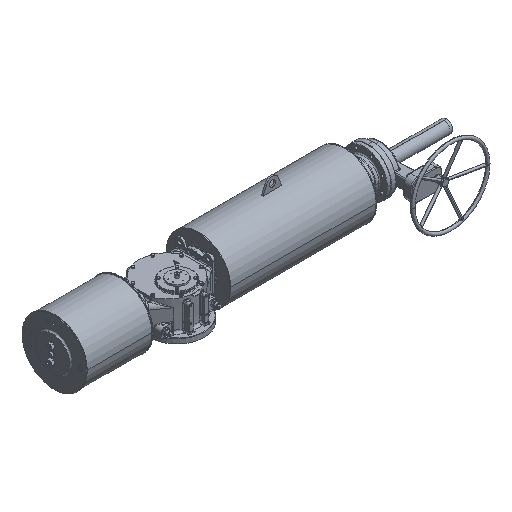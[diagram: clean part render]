
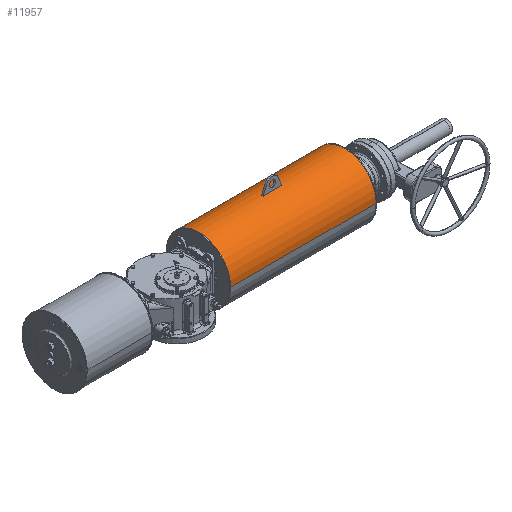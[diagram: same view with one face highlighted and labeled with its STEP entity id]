
A CAD part, isometric view. The second image highlights one B-rep face of the part: STEP entity #11957.
In plain terms, the highlighted cylindrical face has radius 203.2 mm (diameter 406.4 mm), a partial arc.
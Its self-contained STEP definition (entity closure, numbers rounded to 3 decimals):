
#2472 = ORIENTED_EDGE ( 'NONE', *, *, #18635, .T. ) ;
#4959 = AXIS2_PLACEMENT_3D ( 'NONE', #34042, #55928, #63653 ) ;
#5140 = EDGE_CURVE ( 'NONE', #87207, #24349, #77786, .T. ) ;
#8222 = ORIENTED_EDGE ( 'NONE', *, *, #33084, .T. ) ;
#9214 = LINE ( 'NONE', #65351, #10821 ) ;
#9414 = AXIS2_PLACEMENT_3D ( 'NONE', #84397, #21884, #77536 ) ;
#10374 = CARTESIAN_POINT ( 'NONE',  ( 1176.5, 113., 285.638 ) ) ;
#10587 = CARTESIAN_POINT ( 'NONE',  ( 248.3, 108., 82.5 ) ) ;
#10821 = VECTOR ( 'NONE', #58519, 1000. ) ;
#11616 = CARTESIAN_POINT ( 'NONE',  ( 1179.7, 108., 82.5 ) ) ;
#11731 = LINE ( 'NONE', #10374, #87674 ) ;
#11957 = ADVANCED_FACE ( 'NONE', ( #61206, #12387 ), #75349, .T. ) ;
#12387 = FACE_OUTER_BOUND ( 'NONE', #87891, .T. ) ;
#14351 = ORIENTED_EDGE ( 'NONE', *, *, #80067, .T. ) ;
#15177 = ORIENTED_EDGE ( 'NONE', *, *, #61860, .F. ) ;
#16479 = AXIS2_PLACEMENT_3D ( 'NONE', #69265, #34608, #26400 ) ;
#18635 = EDGE_CURVE ( 'NONE', #79381, #27182, #83945, .T. ) ;
#19626 = CARTESIAN_POINT ( 'NONE',  ( 1179.7, 311.2, 82.5 ) ) ;
#19757 = ORIENTED_EDGE ( 'NONE', *, *, #72215, .F. ) ;
#20107 = EDGE_CURVE ( 'NONE', #51439, #45616, #64042, .T. ) ;
#21884 = DIRECTION ( 'NONE',  ( -1., 0., 0. ) ) ;
#22041 = AXIS2_PLACEMENT_3D ( 'NONE', #46195, #60311, #80830 ) ;
#22767 = AXIS2_PLACEMENT_3D ( 'NONE', #11616, #40843, #89166 ) ;
#23686 = ORIENTED_EDGE ( 'NONE', *, *, #23796, .T. ) ;
#23796 = EDGE_CURVE ( 'NONE', #40999, #83256, #9214, .T. ) ;
#24349 = VERTEX_POINT ( 'NONE', #38791 ) ;
#26400 = DIRECTION ( 'NONE',  ( 0., 0., 1. ) ) ;
#27182 = VERTEX_POINT ( 'NONE', #29186 ) ;
#28856 = CARTESIAN_POINT ( 'NONE',  ( 1179.7, -95.2, 82.5 ) ) ;
#29186 = CARTESIAN_POINT ( 'NONE',  ( 774., 108., 285.7 ) ) ;
#32595 = CARTESIAN_POINT ( 'NONE',  ( 654., 113., 285.638 ) ) ;
#32648 = LINE ( 'NONE', #64720, #41790 ) ;
#33084 = EDGE_CURVE ( 'NONE', #45616, #87207, #45824, .T. ) ;
#34042 = CARTESIAN_POINT ( 'NONE',  ( 248.3, 108., 82.5 ) ) ;
#34128 = VERTEX_POINT ( 'NONE', #32595 ) ;
#34608 = DIRECTION ( 'NONE',  ( 1., 0., 0. ) ) ;
#35321 = CARTESIAN_POINT ( 'NONE',  ( 1176.5, 311.2, 82.5 ) ) ;
#37595 = DIRECTION ( 'NONE',  ( 1., 0., 0. ) ) ;
#37960 = ORIENTED_EDGE ( 'NONE', *, *, #20107, .T. ) ;
#38345 = CIRCLE ( 'NONE', #16479, 203.2 ) ;
#38791 = CARTESIAN_POINT ( 'NONE',  ( 248.3, -95.2, 82.5 ) ) ;
#40815 = EDGE_CURVE ( 'NONE', #83256, #55711, #61924, .T. ) ;
#40843 = DIRECTION ( 'NONE',  ( -1., 0., 0. ) ) ;
#40999 = VERTEX_POINT ( 'NONE', #80229 ) ;
#41711 = AXIS2_PLACEMENT_3D ( 'NONE', #73316, #58759, #73782 ) ;
#41790 = VECTOR ( 'NONE', #43768, 1000. ) ;
#42406 = CARTESIAN_POINT ( 'NONE',  ( 774., 113., 285.638 ) ) ;
#43550 = DIRECTION ( 'NONE',  ( -1., 0., 0. ) ) ;
#43768 = DIRECTION ( 'NONE',  ( -1., 0., 0. ) ) ;
#44801 = VECTOR ( 'NONE', #43550, 1000. ) ;
#45109 = DIRECTION ( 'NONE',  ( -1., 0., 0. ) ) ;
#45616 = VERTEX_POINT ( 'NONE', #58582 ) ;
#45824 = CIRCLE ( 'NONE', #4959, 203.2 ) ;
#46195 = CARTESIAN_POINT ( 'NONE',  ( 1176.5, 108., 82.5 ) ) ;
#46979 = DIRECTION ( 'NONE',  ( 0., 0., -1. ) ) ;
#48122 = CIRCLE ( 'NONE', #86002, 203.2 ) ;
#51439 = VERTEX_POINT ( 'NONE', #19626 ) ;
#53641 = EDGE_CURVE ( 'NONE', #64088, #51439, #82518, .T. ) ;
#53833 = DIRECTION ( 'NONE',  ( -1., 0., 0. ) ) ;
#55711 = VERTEX_POINT ( 'NONE', #74291 ) ;
#55916 = EDGE_LOOP ( 'NONE', ( #23686, #71495, #86532, #15177, #2472, #14351 ) ) ;
#55928 = DIRECTION ( 'NONE',  ( 1., 0., 0. ) ) ;
#58007 = EDGE_CURVE ( 'NONE', #55711, #34128, #48122, .T. ) ;
#58519 = DIRECTION ( 'NONE',  ( -1., 0., 0. ) ) ;
#58582 = CARTESIAN_POINT ( 'NONE',  ( 248.3, 311.2, 82.5 ) ) ;
#58759 = DIRECTION ( 'NONE',  ( 1., 0., 0. ) ) ;
#59628 = ORIENTED_EDGE ( 'NONE', *, *, #53641, .T. ) ;
#60311 = DIRECTION ( 'NONE',  ( -1., 0., 0. ) ) ;
#61206 = FACE_BOUND ( 'NONE', #55916, .T. ) ;
#61860 = EDGE_CURVE ( 'NONE', #79381, #34128, #11731, .T. ) ;
#61924 = CIRCLE ( 'NONE', #9414, 203.2 ) ;
#62457 = CARTESIAN_POINT ( 'NONE',  ( 654., 103., 285.638 ) ) ;
#63653 = DIRECTION ( 'NONE',  ( 0., -1., 0. ) ) ;
#64042 = LINE ( 'NONE', #35321, #44801 ) ;
#64088 = VERTEX_POINT ( 'NONE', #28856 ) ;
#64720 = CARTESIAN_POINT ( 'NONE',  ( 1176.5, -95.2, 82.5 ) ) ;
#65351 = CARTESIAN_POINT ( 'NONE',  ( 1176.5, 103., 285.638 ) ) ;
#65390 = DIRECTION ( 'NONE',  ( 0., -1., 0. ) ) ;
#67171 = CARTESIAN_POINT ( 'NONE',  ( 248.3, 108., 285.7 ) ) ;
#69265 = CARTESIAN_POINT ( 'NONE',  ( 774., 108., 82.5 ) ) ;
#71495 = ORIENTED_EDGE ( 'NONE', *, *, #40815, .T. ) ;
#72215 = EDGE_CURVE ( 'NONE', #64088, #24349, #32648, .T. ) ;
#73316 = CARTESIAN_POINT ( 'NONE',  ( 774., 108., 82.5 ) ) ;
#73782 = DIRECTION ( 'NONE',  ( 0., 0., 1. ) ) ;
#74291 = CARTESIAN_POINT ( 'NONE',  ( 654., 108., 285.7 ) ) ;
#75349 = CYLINDRICAL_SURFACE ( 'NONE', #22041, 203.2 ) ;
#76882 = ORIENTED_EDGE ( 'NONE', *, *, #5140, .T. ) ;
#77536 = DIRECTION ( 'NONE',  ( 0., 0., -1. ) ) ;
#77786 = CIRCLE ( 'NONE', #80706, 203.2 ) ;
#79381 = VERTEX_POINT ( 'NONE', #42406 ) ;
#80067 = EDGE_CURVE ( 'NONE', #27182, #40999, #38345, .T. ) ;
#80229 = CARTESIAN_POINT ( 'NONE',  ( 774., 103., 285.638 ) ) ;
#80706 = AXIS2_PLACEMENT_3D ( 'NONE', #10587, #37595, #65390 ) ;
#80830 = DIRECTION ( 'NONE',  ( 0., -1., 0. ) ) ;
#82518 = CIRCLE ( 'NONE', #22767, 203.2 ) ;
#83256 = VERTEX_POINT ( 'NONE', #62457 ) ;
#83945 = CIRCLE ( 'NONE', #41711, 203.2 ) ;
#84397 = CARTESIAN_POINT ( 'NONE',  ( 654., 108., 82.5 ) ) ;
#86002 = AXIS2_PLACEMENT_3D ( 'NONE', #88016, #53833, #46979 ) ;
#86532 = ORIENTED_EDGE ( 'NONE', *, *, #58007, .T. ) ;
#87207 = VERTEX_POINT ( 'NONE', #67171 ) ;
#87674 = VECTOR ( 'NONE', #45109, 1000. ) ;
#87891 = EDGE_LOOP ( 'NONE', ( #59628, #37960, #8222, #76882, #19757 ) ) ;
#88016 = CARTESIAN_POINT ( 'NONE',  ( 654., 108., 82.5 ) ) ;
#89166 = DIRECTION ( 'NONE',  ( 0., -1., 0. ) ) ;
